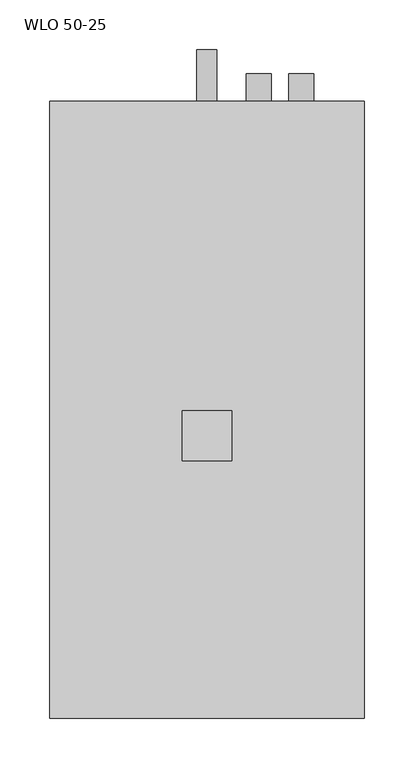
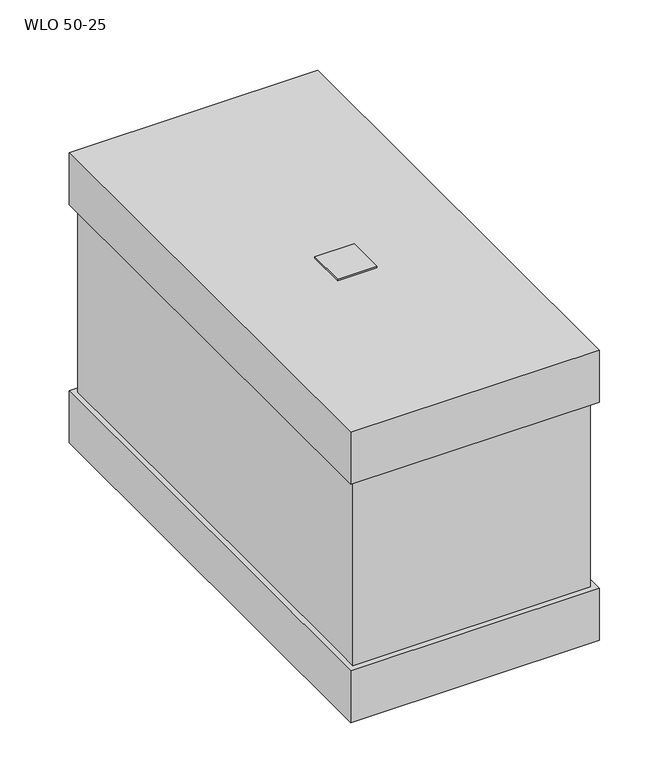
"""IFC4 building model written with IfcOpenShell, lengths in millimetres: proxy geometry, KORF_Воздухоохладитель_Водяной_WLO_Правый : WLO 50-25."""

from ifc_helpers import new_model, si_unit, point, frame, frame_2d, origin, place, context, project, spatial, polyline, circle_curve, trimmed, segment, composite_curve, outline, extrude, faceted_brep, source, transform, mapped, element, save


def wlo_50_25_9d767189(model_context):
    return source(origin(), model_context, "Body", "SolidModel", [
        extrude(outline(polyline([(133.0, -25.0), (133.0, 25.0), (183.0, 25.0), (183.0, -25.0), (133.0, -25.0)])), frame((0.0, 0.0, 195.0), z_axis=(0.0, 0.0, 1.0), x_axis=(1.0, 0.0, 0.0)), (0.0, 0.0, 1.0), 2.0),
        faceted_brep([(316.0, -284.0, 195.0), (316.0, -284.0, 125.0), (316.0, 336.0, 125.0), (316.0, 336.0, 195.0), (316.0, -284.0, -125.0), (316.0, -284.0, -195.0), (316.0, 336.0, -195.0), (316.0, 336.0, -125.0), (0.0, -284.0, 195.0), (0.0, 336.0, 195.0), (0.0, 336.0, 125.0), (0.0, -284.0, 125.0), (0.0, -284.0, -125.0), (0.0, 336.0, -125.0), (0.0, 336.0, -195.0), (0.0, -284.0, -195.0), (7.0, -277.0, 125.0), (309.0, -277.0, 125.0), (309.0, -250.0, 125.0), (309.0, 250.0, 125.0), (309.0, 329.0, 125.0), (7.0, 329.0, 125.0), (7.0, 250.0, 125.0), (7.0, -250.0, 125.0), (309.0, -277.0, -125.0), (7.0, -277.0, -125.0), (7.0, -250.0, -125.0), (7.0, 250.0, -125.0), (7.0, 329.0, -125.0), (309.0, 329.0, -125.0), (309.0, 250.0, -125.0), (309.0, -250.0, -125.0)], [[[0, 1, 2, 3]], [[4, 5, 6, 7]], [[8, 9, 10, 11]], [[12, 13, 14, 15]], [[1, 0, 8, 11]], [[2, 1, 11, 10], [16, 17, 18, 19, 20, 21, 22, 23]], [[3, 2, 10, 9]], [[0, 3, 9, 8]], [[5, 4, 12, 15]], [[6, 5, 15, 14]], [[7, 6, 14, 13]], [[4, 7, 13, 12], [24, 25, 26, 27, 28, 29, 30, 31]], [[17, 24, 31, 30, 29, 20, 19, 18]], [[21, 28, 27, 26, 25, 16, 23, 22]], [[24, 17, 16, 25]], [[20, 29, 28, 21]]]),
        extrude(outline(composite_curve([segment(trimmed(circle_curve(frame_2d((50.0, 253.0)), 12.5), [point((50.0, 240.5))], [point((50.0, 265.5))], False, "CARTESIAN"), True, "CONTINUOUS"), segment(trimmed(circle_curve(frame_2d((50.0, 253.0)), 12.5), [point((50.0, 265.5))], [point((50.0, 240.5))], False, "CARTESIAN"), True, "CONTINUOUS")], self_intersect=False)), frame((0.0, 329.0, 0.0), z_axis=(0.0, 1.0, 0.0), x_axis=(0.0, 0.0, 1.0)), (0.0, 0.0, 1.0), 35.0),
        extrude(outline(composite_curve([segment(trimmed(circle_curve(frame_2d((-50.0, 210.0)), 12.5), [point((-50.0, 197.5))], [point((-50.0, 222.5))], False, "CARTESIAN"), True, "CONTINUOUS"), segment(trimmed(circle_curve(frame_2d((-50.0, 210.0)), 12.5), [point((-50.0, 222.5))], [point((-50.0, 197.5))], False, "CARTESIAN"), True, "CONTINUOUS")], self_intersect=False)), frame((0.0, 329.0, 0.0), z_axis=(0.0, 1.0, 0.0), x_axis=(0.0, 0.0, 1.0)), (0.0, 0.0, 1.0), 35.0),
        extrude(outline(composite_curve([segment(trimmed(circle_curve(frame_2d((-177.0, 158.0)), 10.0), [point((-177.0, 148.0))], [point((-177.0, 168.0))], False, "CARTESIAN"), True, "CONTINUOUS"), segment(trimmed(circle_curve(frame_2d((-177.0, 158.0)), 10.0), [point((-177.0, 168.0))], [point((-177.0, 148.0))], False, "CARTESIAN"), True, "CONTINUOUS")], self_intersect=False)), frame((0.0, 336.0, 0.0), z_axis=(0.0, 1.0, 0.0), x_axis=(0.0, 0.0, 1.0)), (0.0, 0.0, 1.0), 52.0),
    ])


if __name__ == "__main__":
    model = new_model("IFC4")
    model_context = context("Model", 3, world=origin())
    ifc_project = project(units=[si_unit("LENGTHUNIT", "METRE", prefix="MILLI")], contexts=[model_context])
    site = spatial("IfcSite", under=ifc_project)
    building = spatial("IfcBuilding", under=site)
    placement = place(None, origin())
    wlo_50_25_shape = wlo_50_25_9d767189(model_context)
    element("IfcBuildingElementProxy", 1, Name="KORF_Воздухоохладитель_Водяной_WLO_Правый : WLO 50-25", ObjectType="KORF_Воздухоохладитель_Водяной_WLO_Правый : WLO 50-25", at=placement, inside=building, context=model_context, shape_type="MappedRepresentation", body=[
        mapped(wlo_50_25_shape, transform((0.0, 0.0, 0.0), x_axis=(1.0, 0.0, 0.0), y_axis=(0.0, 1.0, 0.0), z_axis=(0.0, 0.0, 1.0))),
    ])
    save(model, "model.ifc")
